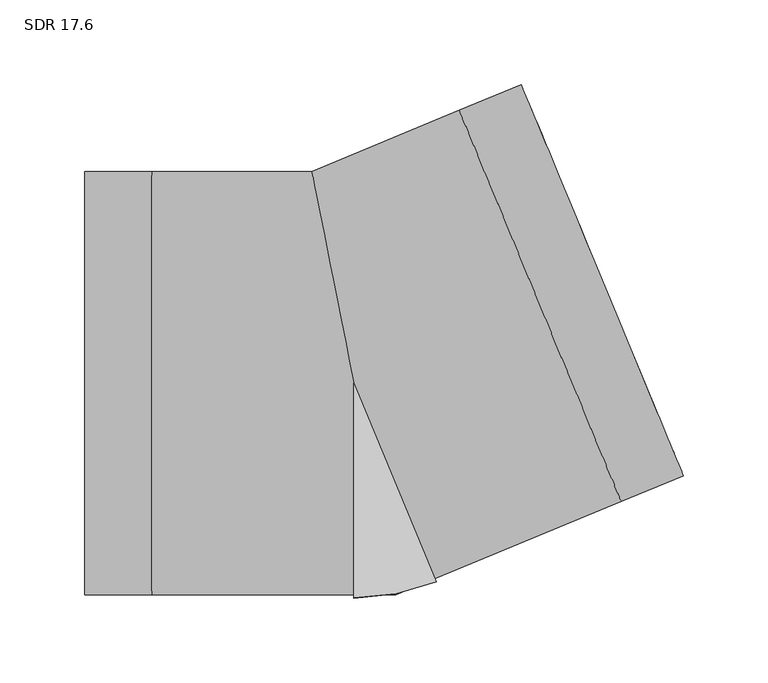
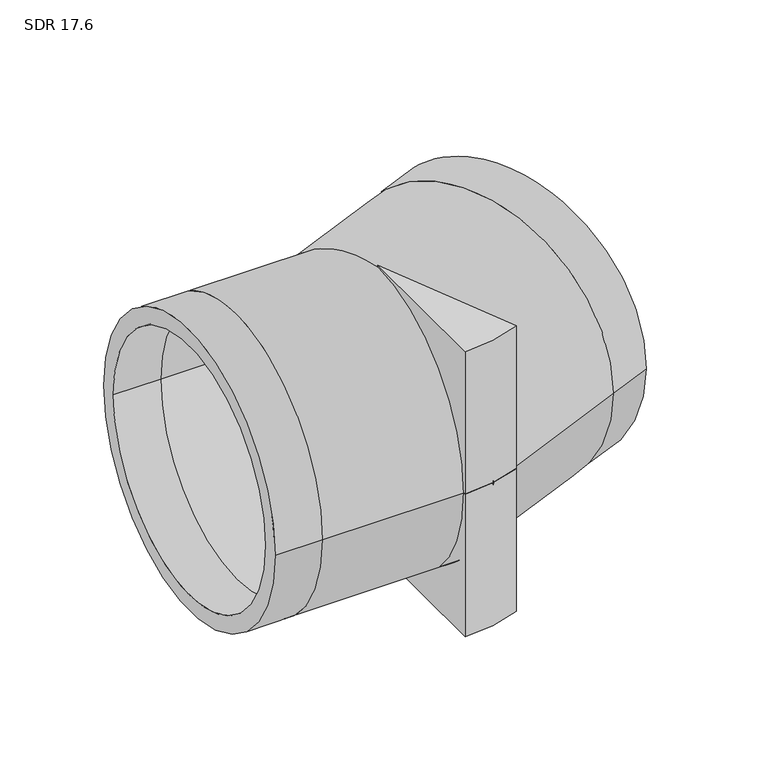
"""IFC4 building model written with IfcOpenShell, lengths in millimetres: pipe fitting geometry, Aquatherm - Elbow Blue BW Segmented : SDR 17.6."""

from ifc_helpers import new_model, si_unit, point, frame, origin, origin_with_axes, origin_2d, place, context, project, spatial, polyline, circle_curve, ellipse_curve, trimmed, segment, composite_curve, outline, extrude, source, transform, mapped, element, save
from ifc_brep_helpers import plane_surface, cylinder_surface, revolved_surface, advanced_brep


def sdr_17_6_dca5229e(model_context):
    return source(origin(), model_context, "Body", "SolidModel", [
        extrude(outline(composite_curve([segment(polyline([(0.0, -127.0), (0.0, 0.0), (48.6007959, -117.3327006)]), True, "CONTINUOUS"), segment(trimmed(circle_curve(origin_2d(), 127.0), [point((48.6007959, -117.3327006))], [point((0.0, -127.0))], False, "CARTESIAN"), True, "CONTINUOUS")], self_intersect=False)), frame((0.0, 0.0, -127.0), z_axis=(0.0, 0.0, 1.0), x_axis=(1.0, 0.0, 0.0)), (0.0, 0.0, 1.0), 127.0),
        extrude(outline(composite_curve([segment(trimmed(circle_curve(origin_2d(), 127.0), [point((48.6007959, -117.3327006))], [point((0.0, -127.0))], False, "CARTESIAN"), True, "CONTINUOUS"), segment(polyline([(0.0, -127.0), (0.0, 0.0), (48.6007959, -117.3327006)]), True, "CONTINUOUS")], self_intersect=False)), origin_with_axes(), (0.0, 0.0, 1.0), 127.0),
        advanced_brep(
        [(-158.75, -124.968, 0.0), (-158.75, 124.968, 0.0), (-158.75, -110.7683515, 0.0), (-158.75, 110.7683515, 0.0), (194.489059, -54.7043825, 0.0), (98.8426926, 176.2063723, 0.0), (189.0550887, -41.5856179, 0.0), (104.2766628, 163.0876077, 0.0), (-119.0625, -124.968, 0.0), (-119.0625, 124.968, 0.0), (-119.0625, -110.7683515, 0.0), (-119.0625, 110.7683515, 0.0), (24.8576807, -124.968, 0.0), (-24.8576807, 124.968, 0.0), (22.033195, -110.7683515, 0.0), (-22.033195, 110.7683515, 0.0), (157.82259, -69.8921313, 0.0), (62.1762237, 161.0186236, 0.0), (152.3886198, -56.7733667, 0.0), (67.6101939, 147.899859, 0.0)],
        [
            (0, 1, circle_curve(frame((-158.75, 0.0, 0.0), z_axis=(-1.0, 0.0, 0.0), x_axis=(0.0, 1.0, 0.0)), 124.968)),
            (1, 0, circle_curve(frame((-158.75, 0.0, 0.0), z_axis=(-1.0, 0.0, 0.0), x_axis=(0.0, 1.0, 0.0)), 124.968)),
            (2, 3, circle_curve(frame((-158.75, 0.0, 0.0), z_axis=(1.0, 0.0, 0.0), x_axis=(0.0, 1.0, 0.0)), 110.7683515)),
            (3, 2, circle_curve(frame((-158.75, 0.0, 0.0), z_axis=(1.0, 0.0, 0.0), x_axis=(0.0, 1.0, 0.0)), 110.7683515)),
            (4, 5, circle_curve(frame((146.6658758, 60.7509949, 0.0), z_axis=(0.9238795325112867, 0.3826834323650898, 0.0), x_axis=(-0.3826834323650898, 0.9238795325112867, 0.0)), 124.968)),
            (5, 4, circle_curve(frame((146.6658758, 60.7509949, 0.0), z_axis=(0.9238795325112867, 0.3826834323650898, 0.0), x_axis=(-0.3826834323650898, 0.9238795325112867, 0.0)), 124.968)),
            (6, 7, circle_curve(frame((146.6658758, 60.7509949, 0.0), z_axis=(-0.9238795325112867, -0.3826834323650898, 0.0), x_axis=(-0.3826834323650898, 0.9238795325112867, 0.0)), 110.7683515)),
            (7, 6, circle_curve(frame((146.6658758, 60.7509949, 0.0), z_axis=(-0.9238795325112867, -0.3826834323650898, 0.0), x_axis=(-0.3826834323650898, 0.9238795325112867, 0.0)), 110.7683515)),
            (0, 8),
            (8, 9, circle_curve(frame((-119.0625, 0.0, 0.0), z_axis=(-1.0, 0.0, 0.0), x_axis=(0.0, 1.0, 0.0)), 124.968)),
            (9, 1),
            (9, 8, circle_curve(frame((-119.0625, 0.0, 0.0), z_axis=(-1.0, 0.0, 0.0), x_axis=(0.0, 1.0, 0.0)), 124.968)),
            (2, 10),
            (10, 11, circle_curve(frame((-119.0625, 0.0, 0.0), z_axis=(1.0, 0.0, 0.0), x_axis=(0.0, 1.0, 0.0)), 110.7683515)),
            (11, 3),
            (11, 10, circle_curve(frame((-119.0625, 0.0, 0.0), z_axis=(1.0, 0.0, 0.0), x_axis=(0.0, 1.0, 0.0)), 110.7683515)),
            (8, 12),
            (12, 13, ellipse_curve(frame((0.0, 0.0, 0.0), z_axis=(-0.9807852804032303, -0.19509032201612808, 0.0), x_axis=(-0.19509032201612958, 0.9807852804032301, 0.0)), 127.4162679, 124.968)),
            (13, 9),
            (13, 12, ellipse_curve(frame((0.0, 0.0, 0.0), z_axis=(-0.9807852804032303, -0.19509032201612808, 0.0), x_axis=(-0.19509032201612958, 0.9807852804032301, 0.0)), 127.4162679, 124.968)),
            (10, 14),
            (14, 15, ellipse_curve(frame((0.0, 0.0, 0.0), z_axis=(0.9807852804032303, 0.19509032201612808, 0.0), x_axis=(0.19509032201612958, -0.9807852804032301, 0.0)), 112.9384318, 110.7683515)),
            (15, 11),
            (15, 14, ellipse_curve(frame((0.0, 0.0, 0.0), z_axis=(0.9807852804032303, 0.19509032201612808, 0.0), x_axis=(0.19509032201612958, -0.9807852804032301, 0.0)), 112.9384318, 110.7683515)),
            (12, 16),
            (16, 17, circle_curve(frame((109.9994068, 45.5632462, 0.0), z_axis=(-0.9238795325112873, -0.38268343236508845, 0.0), x_axis=(-0.38268343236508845, 0.9238795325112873, 0.0)), 124.968)),
            (17, 13),
            (17, 16, circle_curve(frame((109.9994068, 45.5632462, 0.0), z_axis=(-0.9238795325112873, -0.38268343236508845, 0.0), x_axis=(-0.38268343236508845, 0.9238795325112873, 0.0)), 124.968)),
            (14, 18),
            (18, 19, circle_curve(frame((109.9994068, 45.5632462, 0.0), z_axis=(0.9238795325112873, 0.38268343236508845, 0.0), x_axis=(-0.38268343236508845, 0.9238795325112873, 0.0)), 110.7683515)),
            (19, 15),
            (19, 18, circle_curve(frame((109.9994068, 45.5632462, 0.0), z_axis=(0.9238795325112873, 0.38268343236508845, 0.0), x_axis=(-0.38268343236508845, 0.9238795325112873, 0.0)), 110.7683515)),
            (16, 4),
            (5, 17),
            (18, 6),
            (7, 19),
        ],
        [
            plane_surface(frame((-158.75, 0.0, 0.0), z_axis=(-1.0, 0.0, 0.0), x_axis=(0.0, 0.0, 1.0))),
            plane_surface(frame((146.6658758, 60.7509949, 0.0), z_axis=(0.9238795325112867, 0.3826834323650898, 0.0), x_axis=(0.0, 0.0, 1.0))),
            cylinder_surface(frame((-158.75, 0.0, 0.0), z_axis=(-1.0, 0.0, 0.0), x_axis=(0.0, 1.0, 0.0)), 124.968),
            revolved_surface(polyline([(-119.0625, 110.7683515, 0.0), (-158.75, 110.7683515, 0.0)]), (-158.75, 0.0, 0.0), (1.0, 0.0, 0.0)),
            cylinder_surface(frame((-119.0625, 0.0, 0.0), z_axis=(-1.0, 0.0, 0.0), x_axis=(0.0, 1.0, 0.0)), 124.968),
            revolved_surface(polyline([(22.03319502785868, 110.7683515, 0.0), (-119.0625, 110.7683515, 0.0)]), (-119.0625, 0.0, 0.0), (1.0, 0.0, 0.0)),
            cylinder_surface(frame((0.0, 0.0, 0.0), z_axis=(-0.9238795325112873, -0.38268343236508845, 0.0), x_axis=(-0.38268343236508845, 0.9238795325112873, 0.0)), 124.968),
            revolved_surface(polyline([(67.61019391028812, 147.8998589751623, 0.0), (-62.74523089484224, 93.90487409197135, 0.0)]), (0.0, 0.0, 0.0), (0.9238795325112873, 0.38268343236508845, 0.0)),
            cylinder_surface(frame((109.9994068, 45.5632462, 0.0), z_axis=(-0.9238795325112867, -0.3826834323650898, 0.0), x_axis=(-0.3826834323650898, 0.9238795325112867, 0.0)), 124.968),
            revolved_surface(polyline([(104.27666283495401, 163.08760773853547, 0.0), (67.61019385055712, 147.89985900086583, 0.0)]), (109.9994068, 45.5632462, 0.0), (0.9238795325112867, 0.3826834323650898, 0.0)),
        ],
        [
            (0, [[1, 2], [3, 4]]),
            (1, [[5, 6], [7, 8]]),
            (2, [[-1, 9, 10, 11]]),
            (2, [[-2, -11, 12, -9]]),
            (3, [[-3, 13, 14, 15]]),
            (3, [[-4, -15, 16, -13]]),
            (4, [[-10, 17, 18, 19]]),
            (4, [[-12, -19, 20, -17]]),
            (5, [[-14, 21, 22, 23]]),
            (5, [[-16, -23, 24, -21]]),
            (6, [[-18, 25, 26, 27]]),
            (6, [[-20, -27, 28, -25]]),
            (7, [[-22, 29, 30, 31]]),
            (7, [[-24, -31, 32, -29]]),
            (8, [[-26, 33, -6, 34]]),
            (8, [[-28, -34, -5, -33]]),
            (9, [[-30, 35, -8, 36]]),
            (9, [[-32, -36, -7, -35]]),
        ],
    ),
    ])


if __name__ == "__main__":
    model = new_model("IFC4")
    model_context = context("Model", 3, world=origin())
    ifc_project = project(units=[si_unit("LENGTHUNIT", "METRE", prefix="MILLI")], contexts=[model_context])
    site = spatial("IfcSite", under=ifc_project)
    building = spatial("IfcBuilding", under=site)
    placement = place(None, origin())
    sdr_17_6_shape = sdr_17_6_dca5229e(model_context)
    element("IfcPipeFitting", 1, ObjectType="Aquatherm - Elbow Blue BW Segmented : SDR 17.6", at=placement, inside=building, context=model_context, shape_type="MappedRepresentation", body=[
        mapped(sdr_17_6_shape, transform((0.0, 0.0, 0.0), x_axis=(1.0, 0.0, 0.0), y_axis=(0.0, 1.0, 0.0), z_axis=(0.0, 0.0, 1.0))),
    ])
    save(model, "model.ifc")
